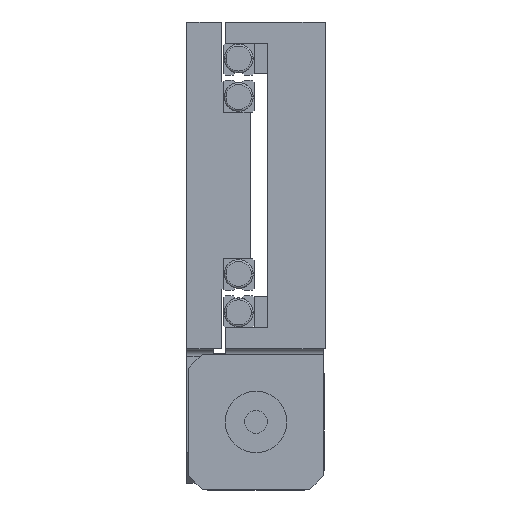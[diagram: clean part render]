
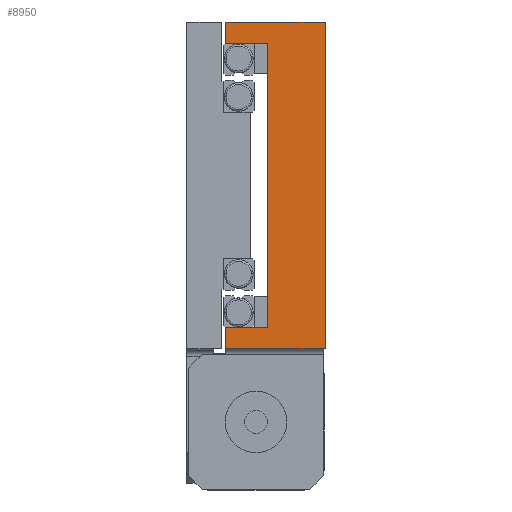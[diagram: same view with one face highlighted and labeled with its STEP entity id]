
A CAD part, left-side view. The second image highlights one B-rep face of the part: STEP entity #8950.
In plain terms, the highlighted planar face has unit normal (-1, 0, 0).
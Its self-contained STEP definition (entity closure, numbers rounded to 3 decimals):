
#317 = ORIENTED_EDGE ( 'NONE', *, *, #5864, .F. ) ;
#545 = VECTOR ( 'NONE', #8509, 1000. ) ;
#1020 = EDGE_CURVE ( 'NONE', #3868, #14266, #4587, .T. ) ;
#1199 = CARTESIAN_POINT ( 'NONE',  ( -177.5, 26., 42.5 ) ) ;
#1447 = VECTOR ( 'NONE', #14534, 1000. ) ;
#1738 = DIRECTION ( 'NONE',  ( 0., 1., 0. ) ) ;
#2282 = CARTESIAN_POINT ( 'NONE',  ( -177.5, 18.5, 37. ) ) ;
#2476 = VECTOR ( 'NONE', #1738, 1000. ) ;
#3437 = ORIENTED_EDGE ( 'NONE', *, *, #1020, .F. ) ;
#3583 = EDGE_CURVE ( 'NONE', #15180, #18687, #7100, .T. ) ;
#3868 = VERTEX_POINT ( 'NONE', #6821 ) ;
#4165 = VECTOR ( 'NONE', #22743, 1000. ) ;
#4491 = VECTOR ( 'NONE', #10864, 1000. ) ;
#4587 = LINE ( 'NONE', #10108, #20838 ) ;
#5093 = CARTESIAN_POINT ( 'NONE',  ( -177.5, 26., -37. ) ) ;
#5598 = VERTEX_POINT ( 'NONE', #6445 ) ;
#5629 = VERTEX_POINT ( 'NONE', #8018 ) ;
#5632 = LINE ( 'NONE', #12560, #22943 ) ;
#5864 = EDGE_CURVE ( 'NONE', #11872, #5598, #21911, .T. ) ;
#5883 = CARTESIAN_POINT ( 'NONE',  ( -177.5, 15., -37. ) ) ;
#6445 = CARTESIAN_POINT ( 'NONE',  ( -177.5, 26., -42.5 ) ) ;
#6821 = CARTESIAN_POINT ( 'NONE',  ( -177.5, 26., 37. ) ) ;
#7100 = LINE ( 'NONE', #23298, #2476 ) ;
#7402 = CARTESIAN_POINT ( 'NONE',  ( -177.5, 0., -42.5 ) ) ;
#7920 = ORIENTED_EDGE ( 'NONE', *, *, #9405, .F. ) ;
#8018 = CARTESIAN_POINT ( 'NONE',  ( -177.5, 0., 42.5 ) ) ;
#8509 = DIRECTION ( 'NONE',  ( 0., 0., 1. ) ) ;
#8592 = CARTESIAN_POINT ( 'NONE',  ( -177.5, 26., 42.5 ) ) ;
#8950 = ADVANCED_FACE ( 'NONE', ( #9368 ), #16690, .F. ) ;
#9368 = FACE_OUTER_BOUND ( 'NONE', #11175, .T. ) ;
#9405 = EDGE_CURVE ( 'NONE', #15180, #20429, #18783, .T. ) ;
#10108 = CARTESIAN_POINT ( 'NONE',  ( -177.5, 26., 42.5 ) ) ;
#10650 = EDGE_CURVE ( 'NONE', #20429, #3868, #18554, .T. ) ;
#10864 = DIRECTION ( 'NONE',  ( 0., 1., 0. ) ) ;
#10900 = DIRECTION ( 'NONE',  ( 1., 0., 0. ) ) ;
#11001 = DIRECTION ( 'NONE',  ( 0., 0., -1. ) ) ;
#11025 = ORIENTED_EDGE ( 'NONE', *, *, #10650, .F. ) ;
#11175 = EDGE_LOOP ( 'NONE', ( #7920, #14719, #11712, #317, #19780, #17165, #3437, #11025 ) ) ;
#11505 = DIRECTION ( 'NONE',  ( 0., 0., 1. ) ) ;
#11712 = ORIENTED_EDGE ( 'NONE', *, *, #20811, .F. ) ;
#11872 = VERTEX_POINT ( 'NONE', #18283 ) ;
#12253 = DIRECTION ( 'NONE',  ( 0., -1., 0. ) ) ;
#12560 = CARTESIAN_POINT ( 'NONE',  ( -177.5, 26., 42.5 ) ) ;
#12790 = DIRECTION ( 'NONE',  ( 0., 0., 1. ) ) ;
#13035 = VECTOR ( 'NONE', #12253, 1000. ) ;
#14266 = VERTEX_POINT ( 'NONE', #1199 ) ;
#14534 = DIRECTION ( 'NONE',  ( 0., 1., 0. ) ) ;
#14719 = ORIENTED_EDGE ( 'NONE', *, *, #3583, .T. ) ;
#14792 = CARTESIAN_POINT ( 'NONE',  ( -177.5, 26., 42.5 ) ) ;
#15180 = VERTEX_POINT ( 'NONE', #5883 ) ;
#15462 = CARTESIAN_POINT ( 'NONE',  ( -177.5, 15., -29. ) ) ;
#16041 = EDGE_CURVE ( 'NONE', #14266, #5629, #17712, .T. ) ;
#16690 = PLANE ( 'NONE',  #20479 ) ;
#16783 = EDGE_CURVE ( 'NONE', #11872, #5629, #19647, .T. ) ;
#17165 = ORIENTED_EDGE ( 'NONE', *, *, #16041, .F. ) ;
#17635 = CARTESIAN_POINT ( 'NONE',  ( -177.5, 0., 42.5 ) ) ;
#17712 = LINE ( 'NONE', #8592, #13035 ) ;
#18283 = CARTESIAN_POINT ( 'NONE',  ( -177.5, 0., -42.5 ) ) ;
#18554 = LINE ( 'NONE', #2282, #1447 ) ;
#18687 = VERTEX_POINT ( 'NONE', #5093 ) ;
#18783 = LINE ( 'NONE', #15462, #4165 ) ;
#19647 = LINE ( 'NONE', #17635, #545 ) ;
#19780 = ORIENTED_EDGE ( 'NONE', *, *, #16783, .T. ) ;
#20072 = CARTESIAN_POINT ( 'NONE',  ( -177.5, 15., 37. ) ) ;
#20429 = VERTEX_POINT ( 'NONE', #20072 ) ;
#20479 = AXIS2_PLACEMENT_3D ( 'NONE', #14792, #10900, #11001 ) ;
#20811 = EDGE_CURVE ( 'NONE', #5598, #18687, #5632, .T. ) ;
#20838 = VECTOR ( 'NONE', #11505, 1000. ) ;
#21911 = LINE ( 'NONE', #7402, #4491 ) ;
#22743 = DIRECTION ( 'NONE',  ( 0., 0., 1. ) ) ;
#22943 = VECTOR ( 'NONE', #12790, 1000. ) ;
#23298 = CARTESIAN_POINT ( 'NONE',  ( -177.5, 18.5, -37. ) ) ;
